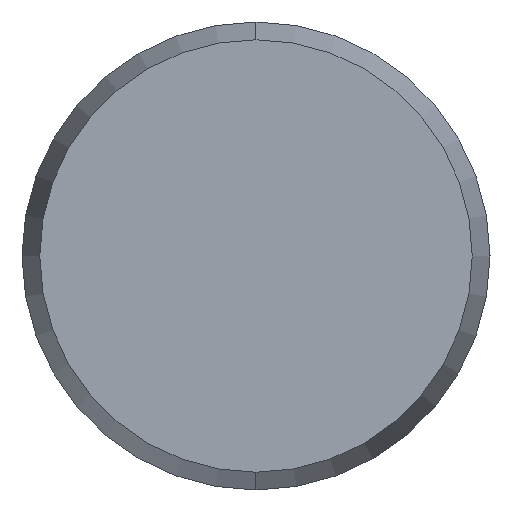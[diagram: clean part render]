
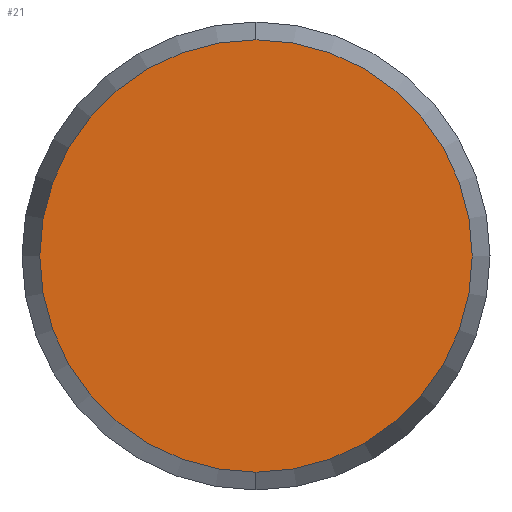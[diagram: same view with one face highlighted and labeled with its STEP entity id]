
A CAD part, left-side view. The second image highlights one B-rep face of the part: STEP entity #21.
In plain terms, the highlighted planar face has unit normal (-1, 0, 0).
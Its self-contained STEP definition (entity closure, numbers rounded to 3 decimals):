
#21 = ADVANCED_FACE ( 'NONE', ( #93 ), #95, .F. ) ;
#22 = ORIENTED_EDGE ( 'NONE', *, *, #34, .F. ) ;
#27 = EDGE_LOOP ( 'NONE', ( #28, #22 ) ) ;
#28 = ORIENTED_EDGE ( 'NONE', *, *, #272, .F. ) ;
#34 = EDGE_CURVE ( 'NONE', #270, #271, #123, .T. ) ;
#60 = CARTESIAN_POINT ( 'NONE',  ( -27.5, 0., 0. ) ) ;
#90 = DIRECTION ( 'NONE',  ( 1., 0., 0. ) ) ;
#91 = DIRECTION ( 'NONE',  ( 0., 0., -1. ) ) ;
#93 = FACE_OUTER_BOUND ( 'NONE', #27, .T. ) ;
#94 = AXIS2_PLACEMENT_3D ( 'NONE', #60, #90, #91 ) ;
#95 = PLANE ( 'NONE',  #94 ) ;
#119 = DIRECTION ( 'NONE',  ( 0., 0., -1. ) ) ;
#120 = DIRECTION ( 'NONE',  ( 1., 0., 0. ) ) ;
#121 = CARTESIAN_POINT ( 'NONE',  ( -27.5, 0., 0. ) ) ;
#122 = AXIS2_PLACEMENT_3D ( 'NONE', #121, #120, #119 ) ;
#123 = CIRCLE ( 'NONE', #122, 5.544 ) ;
#174 = DIRECTION ( 'NONE',  ( 0., 0., -1. ) ) ;
#175 = DIRECTION ( 'NONE',  ( 1., 0., 0. ) ) ;
#176 = CARTESIAN_POINT ( 'NONE',  ( -27.5, 0., 0. ) ) ;
#177 = AXIS2_PLACEMENT_3D ( 'NONE', #176, #175, #174 ) ;
#178 = CIRCLE ( 'NONE', #177, 5.544 ) ;
#182 = CARTESIAN_POINT ( 'NONE',  ( -27.5, 0., 5.544 ) ) ;
#183 = CARTESIAN_POINT ( 'NONE',  ( -27.5, 0., -5.544 ) ) ;
#270 = VERTEX_POINT ( 'NONE', #183 ) ;
#271 = VERTEX_POINT ( 'NONE', #182 ) ;
#272 = EDGE_CURVE ( 'NONE', #271, #270, #178, .T. ) ;
